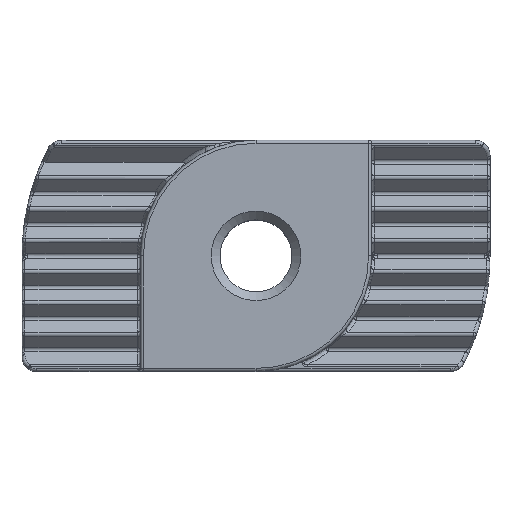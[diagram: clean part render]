
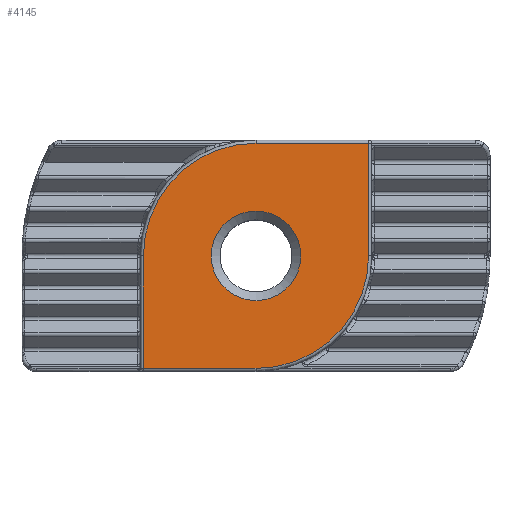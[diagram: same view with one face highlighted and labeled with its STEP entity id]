
A CAD part, top view. The second image highlights one B-rep face of the part: STEP entity #4145.
In plain terms, the highlighted planar face has unit normal (0, 0, 1).
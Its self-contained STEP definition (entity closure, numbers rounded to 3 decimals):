
#4077 = CONICAL_SURFACE('',#4078,1.38,0.785);
#4078 = AXIS2_PLACEMENT_3D('',#4079,#4080,#4081);
#4079 = CARTESIAN_POINT('',(0.,0.,3.75));
#4080 = DIRECTION('',(0.,0.,1.));
#4081 = DIRECTION('',(-1.,0.,0.));
#4097 = VERTEX_POINT('',#4098);
#4098 = CARTESIAN_POINT('',(1.53,0.,3.9));
#4118 = EDGE_CURVE('',#4097,#4097,#4119,.T.);
#4119 = SURFACE_CURVE('',#4120,(#4125,#4132),.PCURVE_S1.);
#4120 = CIRCLE('',#4121,1.53);
#4121 = AXIS2_PLACEMENT_3D('',#4122,#4123,#4124);
#4122 = CARTESIAN_POINT('',(0.,0.,3.9));
#4123 = DIRECTION('',(0.,0.,1.));
#4124 = DIRECTION('',(-1.,0.,0.));
#4125 = PCURVE('',#4077,#4126);
#4126 = DEFINITIONAL_REPRESENTATION('',(#4127),#4131);
#4127 = LINE('',#4128,#4129);
#4128 = CARTESIAN_POINT('',(0.,0.15));
#4129 = VECTOR('',#4130,1.);
#4130 = DIRECTION('',(1.,0.));
#4131 = ( GEOMETRIC_REPRESENTATION_CONTEXT(2) 
PARAMETRIC_REPRESENTATION_CONTEXT() REPRESENTATION_CONTEXT('2D SPACE',''
  ) );
#4132 = PCURVE('',#4133,#4138);
#4133 = PLANE('',#4134);
#4134 = AXIS2_PLACEMENT_3D('',#4135,#4136,#4137);
#4135 = CARTESIAN_POINT('',(0.,0.,3.9));
#4136 = DIRECTION('',(0.,0.,1.));
#4137 = DIRECTION('',(1.,0.,-0.));
#4138 = DEFINITIONAL_REPRESENTATION('',(#4139),#4143);
#4139 = CIRCLE('',#4140,1.53);
#4140 = AXIS2_PLACEMENT_2D('',#4141,#4142);
#4141 = CARTESIAN_POINT('',(0.,0.));
#4142 = DIRECTION('',(-1.,0.));
#4143 = ( GEOMETRIC_REPRESENTATION_CONTEXT(2) 
PARAMETRIC_REPRESENTATION_CONTEXT() REPRESENTATION_CONTEXT('2D SPACE',''
  ) );
#4145 = ADVANCED_FACE('',(#4146,#4326),#4133,.T.);
#4146 = FACE_BOUND('',#4147,.T.);
#4147 = EDGE_LOOP('',(#4148,#4178,#4206,#4239,#4267,#4295));
#4148 = ORIENTED_EDGE('',*,*,#4149,.F.);
#4149 = EDGE_CURVE('',#4150,#4152,#4154,.T.);
#4150 = VERTEX_POINT('',#4151);
#4151 = CARTESIAN_POINT('',(-3.85,-3.85,3.9));
#4152 = VERTEX_POINT('',#4153);
#4153 = CARTESIAN_POINT('',(-3.85,0.,3.9));
#4154 = SURFACE_CURVE('',#4155,(#4159,#4166),.PCURVE_S1.);
#4155 = LINE('',#4156,#4157);
#4156 = CARTESIAN_POINT('',(-3.85,0.,3.9));
#4157 = VECTOR('',#4158,1.);
#4158 = DIRECTION('',(0.,1.,0.));
#4159 = PCURVE('',#4133,#4160);
#4160 = DEFINITIONAL_REPRESENTATION('',(#4161),#4165);
#4161 = LINE('',#4162,#4163);
#4162 = CARTESIAN_POINT('',(-3.85,0.));
#4163 = VECTOR('',#4164,1.);
#4164 = DIRECTION('',(0.,1.));
#4165 = ( GEOMETRIC_REPRESENTATION_CONTEXT(2) 
PARAMETRIC_REPRESENTATION_CONTEXT() REPRESENTATION_CONTEXT('2D SPACE',''
  ) );
#4166 = PCURVE('',#4167,#4172);
#4167 = CYLINDRICAL_SURFACE('',#4168,0.1);
#4168 = AXIS2_PLACEMENT_3D('',#4169,#4170,#4171);
#4169 = CARTESIAN_POINT('',(-3.85,0.,3.8));
#4170 = DIRECTION('',(0.,-1.,0.));
#4171 = DIRECTION('',(-0.707,0.,0.707));
#4172 = DEFINITIONAL_REPRESENTATION('',(#4173),#4177);
#4173 = LINE('',#4174,#4175);
#4174 = CARTESIAN_POINT('',(-0.785,0.));
#4175 = VECTOR('',#4176,1.);
#4176 = DIRECTION('',(0.,-1.));
#4177 = ( GEOMETRIC_REPRESENTATION_CONTEXT(2) 
PARAMETRIC_REPRESENTATION_CONTEXT() REPRESENTATION_CONTEXT('2D SPACE',''
  ) );
#4178 = ORIENTED_EDGE('',*,*,#4179,.F.);
#4179 = EDGE_CURVE('',#4180,#4150,#4182,.T.);
#4180 = VERTEX_POINT('',#4181);
#4181 = CARTESIAN_POINT('',(0.,-3.85,3.9));
#4182 = SURFACE_CURVE('',#4183,(#4187,#4194),.PCURVE_S1.);
#4183 = LINE('',#4184,#4185);
#4184 = CARTESIAN_POINT('',(-3.75,-3.85,3.9));
#4185 = VECTOR('',#4186,1.);
#4186 = DIRECTION('',(-1.,0.,0.));
#4187 = PCURVE('',#4133,#4188);
#4188 = DEFINITIONAL_REPRESENTATION('',(#4189),#4193);
#4189 = LINE('',#4190,#4191);
#4190 = CARTESIAN_POINT('',(-3.75,-3.85));
#4191 = VECTOR('',#4192,1.);
#4192 = DIRECTION('',(-1.,0.));
#4193 = ( GEOMETRIC_REPRESENTATION_CONTEXT(2) 
PARAMETRIC_REPRESENTATION_CONTEXT() REPRESENTATION_CONTEXT('2D SPACE',''
  ) );
#4194 = PCURVE('',#4195,#4200);
#4195 = CYLINDRICAL_SURFACE('',#4196,0.1);
#4196 = AXIS2_PLACEMENT_3D('',#4197,#4198,#4199);
#4197 = CARTESIAN_POINT('',(-3.75,-3.85,3.8));
#4198 = DIRECTION('',(1.,0.,0.));
#4199 = DIRECTION('',(0.,-0.707,0.707));
#4200 = DEFINITIONAL_REPRESENTATION('',(#4201),#4205);
#4201 = LINE('',#4202,#4203);
#4202 = CARTESIAN_POINT('',(-0.785,0.));
#4203 = VECTOR('',#4204,1.);
#4204 = DIRECTION('',(0.,-1.));
#4205 = ( GEOMETRIC_REPRESENTATION_CONTEXT(2) 
PARAMETRIC_REPRESENTATION_CONTEXT() REPRESENTATION_CONTEXT('2D SPACE',''
  ) );
#4206 = ORIENTED_EDGE('',*,*,#4207,.F.);
#4207 = EDGE_CURVE('',#4208,#4180,#4210,.T.);
#4208 = VERTEX_POINT('',#4209);
#4209 = CARTESIAN_POINT('',(3.85,0.,3.9));
#4210 = SURFACE_CURVE('',#4211,(#4216,#4227),.PCURVE_S1.);
#4211 = CIRCLE('',#4212,3.85);
#4212 = AXIS2_PLACEMENT_3D('',#4213,#4214,#4215);
#4213 = CARTESIAN_POINT('',(0.,0.,3.9));
#4214 = DIRECTION('',(0.,0.,-1.));
#4215 = DIRECTION('',(0.707,-0.707,0.));
#4216 = PCURVE('',#4133,#4217);
#4217 = DEFINITIONAL_REPRESENTATION('',(#4218),#4226);
#4218 = ( BOUNDED_CURVE() B_SPLINE_CURVE(2,(#4219,#4220,#4221,#4222,
#4223,#4224,#4225),.UNSPECIFIED.,.T.,.F.) B_SPLINE_CURVE_WITH_KNOTS((1,2
    ,2,2,2,1),(-2.094,0.,2.094,4.189,
6.283,8.378),.UNSPECIFIED.) CURVE() 
GEOMETRIC_REPRESENTATION_ITEM() RATIONAL_B_SPLINE_CURVE((1.,0.5,1.,0.5,
1.,0.5,1.)) REPRESENTATION_ITEM('') );
#4219 = CARTESIAN_POINT('',(2.722,-2.722));
#4220 = CARTESIAN_POINT('',(-1.993,-7.438));
#4221 = CARTESIAN_POINT('',(-3.719,-0.996));
#4222 = CARTESIAN_POINT('',(-5.445,5.445));
#4223 = CARTESIAN_POINT('',(0.996,3.719));
#4224 = CARTESIAN_POINT('',(7.438,1.993));
#4225 = CARTESIAN_POINT('',(2.722,-2.722));
#4226 = ( GEOMETRIC_REPRESENTATION_CONTEXT(2) 
PARAMETRIC_REPRESENTATION_CONTEXT() REPRESENTATION_CONTEXT('2D SPACE',''
  ) );
#4227 = PCURVE('',#4228,#4233);
#4228 = TOROIDAL_SURFACE('',#4229,3.85,0.1);
#4229 = AXIS2_PLACEMENT_3D('',#4230,#4231,#4232);
#4230 = CARTESIAN_POINT('',(0.,0.,3.8));
#4231 = DIRECTION('',(0.,0.,1.));
#4232 = DIRECTION('',(1.,0.,-0.));
#4233 = DEFINITIONAL_REPRESENTATION('',(#4234),#4238);
#4234 = LINE('',#4235,#4236);
#4235 = CARTESIAN_POINT('',(11.781,1.571));
#4236 = VECTOR('',#4237,1.);
#4237 = DIRECTION('',(-1.,0.));
#4238 = ( GEOMETRIC_REPRESENTATION_CONTEXT(2) 
PARAMETRIC_REPRESENTATION_CONTEXT() REPRESENTATION_CONTEXT('2D SPACE',''
  ) );
#4239 = ORIENTED_EDGE('',*,*,#4240,.F.);
#4240 = EDGE_CURVE('',#4241,#4208,#4243,.T.);
#4241 = VERTEX_POINT('',#4242);
#4242 = CARTESIAN_POINT('',(3.85,3.85,3.9));
#4243 = SURFACE_CURVE('',#4244,(#4248,#4255),.PCURVE_S1.);
#4244 = LINE('',#4245,#4246);
#4245 = CARTESIAN_POINT('',(3.85,0.,3.9));
#4246 = VECTOR('',#4247,1.);
#4247 = DIRECTION('',(0.,-1.,0.));
#4248 = PCURVE('',#4133,#4249);
#4249 = DEFINITIONAL_REPRESENTATION('',(#4250),#4254);
#4250 = LINE('',#4251,#4252);
#4251 = CARTESIAN_POINT('',(3.85,0.));
#4252 = VECTOR('',#4253,1.);
#4253 = DIRECTION('',(0.,-1.));
#4254 = ( GEOMETRIC_REPRESENTATION_CONTEXT(2) 
PARAMETRIC_REPRESENTATION_CONTEXT() REPRESENTATION_CONTEXT('2D SPACE',''
  ) );
#4255 = PCURVE('',#4256,#4261);
#4256 = CYLINDRICAL_SURFACE('',#4257,0.1);
#4257 = AXIS2_PLACEMENT_3D('',#4258,#4259,#4260);
#4258 = CARTESIAN_POINT('',(3.85,0.,3.8));
#4259 = DIRECTION('',(0.,1.,0.));
#4260 = DIRECTION('',(0.707,-0.,0.707));
#4261 = DEFINITIONAL_REPRESENTATION('',(#4262),#4266);
#4262 = LINE('',#4263,#4264);
#4263 = CARTESIAN_POINT('',(5.498,0.));
#4264 = VECTOR('',#4265,1.);
#4265 = DIRECTION('',(0.,-1.));
#4266 = ( GEOMETRIC_REPRESENTATION_CONTEXT(2) 
PARAMETRIC_REPRESENTATION_CONTEXT() REPRESENTATION_CONTEXT('2D SPACE',''
  ) );
#4267 = ORIENTED_EDGE('',*,*,#4268,.F.);
#4268 = EDGE_CURVE('',#4269,#4241,#4271,.T.);
#4269 = VERTEX_POINT('',#4270);
#4270 = CARTESIAN_POINT('',(0.,3.85,3.9));
#4271 = SURFACE_CURVE('',#4272,(#4276,#4283),.PCURVE_S1.);
#4272 = LINE('',#4273,#4274);
#4273 = CARTESIAN_POINT('',(3.75,3.85,3.9));
#4274 = VECTOR('',#4275,1.);
#4275 = DIRECTION('',(1.,0.,0.));
#4276 = PCURVE('',#4133,#4277);
#4277 = DEFINITIONAL_REPRESENTATION('',(#4278),#4282);
#4278 = LINE('',#4279,#4280);
#4279 = CARTESIAN_POINT('',(3.75,3.85));
#4280 = VECTOR('',#4281,1.);
#4281 = DIRECTION('',(1.,0.));
#4282 = ( GEOMETRIC_REPRESENTATION_CONTEXT(2) 
PARAMETRIC_REPRESENTATION_CONTEXT() REPRESENTATION_CONTEXT('2D SPACE',''
  ) );
#4283 = PCURVE('',#4284,#4289);
#4284 = CYLINDRICAL_SURFACE('',#4285,0.1);
#4285 = AXIS2_PLACEMENT_3D('',#4286,#4287,#4288);
#4286 = CARTESIAN_POINT('',(3.75,3.85,3.8));
#4287 = DIRECTION('',(-1.,0.,0.));
#4288 = DIRECTION('',(0.,0.707,0.707));
#4289 = DEFINITIONAL_REPRESENTATION('',(#4290),#4294);
#4290 = LINE('',#4291,#4292);
#4291 = CARTESIAN_POINT('',(-0.785,0.));
#4292 = VECTOR('',#4293,1.);
#4293 = DIRECTION('',(0.,-1.));
#4294 = ( GEOMETRIC_REPRESENTATION_CONTEXT(2) 
PARAMETRIC_REPRESENTATION_CONTEXT() REPRESENTATION_CONTEXT('2D SPACE',''
  ) );
#4295 = ORIENTED_EDGE('',*,*,#4296,.F.);
#4296 = EDGE_CURVE('',#4152,#4269,#4297,.T.);
#4297 = SURFACE_CURVE('',#4298,(#4303,#4314),.PCURVE_S1.);
#4298 = CIRCLE('',#4299,3.85);
#4299 = AXIS2_PLACEMENT_3D('',#4300,#4301,#4302);
#4300 = CARTESIAN_POINT('',(0.,0.,3.9));
#4301 = DIRECTION('',(0.,0.,-1.));
#4302 = DIRECTION('',(-0.707,0.707,0.));
#4303 = PCURVE('',#4133,#4304);
#4304 = DEFINITIONAL_REPRESENTATION('',(#4305),#4313);
#4305 = ( BOUNDED_CURVE() B_SPLINE_CURVE(2,(#4306,#4307,#4308,#4309,
#4310,#4311,#4312),.UNSPECIFIED.,.T.,.F.) B_SPLINE_CURVE_WITH_KNOTS((1,2
    ,2,2,2,1),(-2.094,0.,2.094,4.189,
6.283,8.378),.UNSPECIFIED.) CURVE() 
GEOMETRIC_REPRESENTATION_ITEM() RATIONAL_B_SPLINE_CURVE((1.,0.5,1.,0.5,
1.,0.5,1.)) REPRESENTATION_ITEM('') );
#4306 = CARTESIAN_POINT('',(-2.722,2.722));
#4307 = CARTESIAN_POINT('',(1.993,7.438));
#4308 = CARTESIAN_POINT('',(3.719,0.996));
#4309 = CARTESIAN_POINT('',(5.445,-5.445));
#4310 = CARTESIAN_POINT('',(-0.996,-3.719));
#4311 = CARTESIAN_POINT('',(-7.438,-1.993));
#4312 = CARTESIAN_POINT('',(-2.722,2.722));
#4313 = ( GEOMETRIC_REPRESENTATION_CONTEXT(2) 
PARAMETRIC_REPRESENTATION_CONTEXT() REPRESENTATION_CONTEXT('2D SPACE',''
  ) );
#4314 = PCURVE('',#4315,#4320);
#4315 = TOROIDAL_SURFACE('',#4316,3.85,0.1);
#4316 = AXIS2_PLACEMENT_3D('',#4317,#4318,#4319);
#4317 = CARTESIAN_POINT('',(0.,0.,3.8));
#4318 = DIRECTION('',(0.,0.,1.));
#4319 = DIRECTION('',(1.,0.,-0.));
#4320 = DEFINITIONAL_REPRESENTATION('',(#4321),#4325);
#4321 = LINE('',#4322,#4323);
#4322 = CARTESIAN_POINT('',(8.639,1.571));
#4323 = VECTOR('',#4324,1.);
#4324 = DIRECTION('',(-1.,0.));
#4325 = ( GEOMETRIC_REPRESENTATION_CONTEXT(2) 
PARAMETRIC_REPRESENTATION_CONTEXT() REPRESENTATION_CONTEXT('2D SPACE',''
  ) );
#4326 = FACE_BOUND('',#4327,.T.);
#4327 = EDGE_LOOP('',(#4328));
#4328 = ORIENTED_EDGE('',*,*,#4118,.F.);
